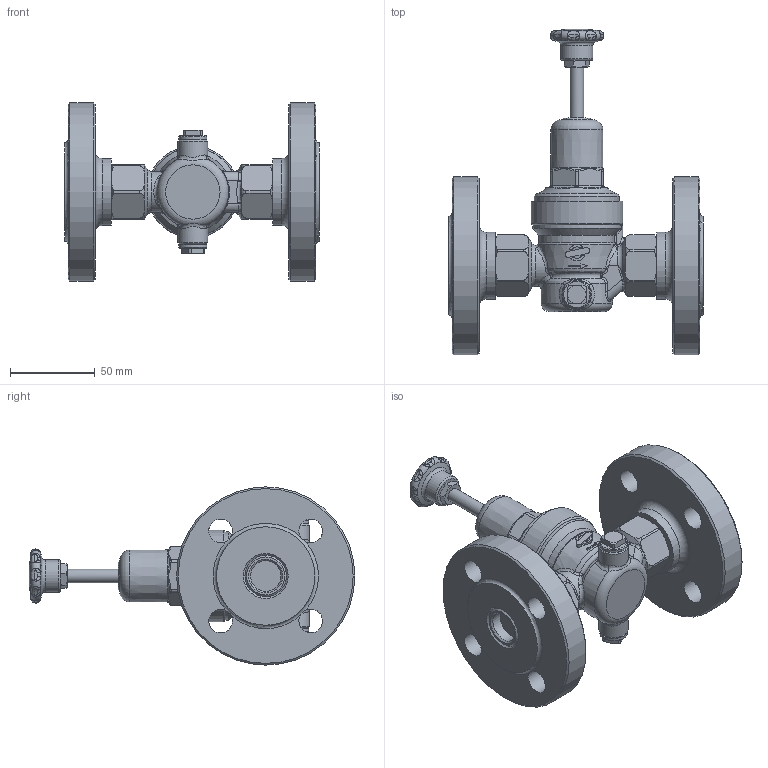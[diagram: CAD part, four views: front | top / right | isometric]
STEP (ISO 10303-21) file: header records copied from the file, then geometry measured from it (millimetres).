
FILE_DESCRIPTION(/* description */ (''),/* implementation_level */ '2;1');
FILE_NAME(/* name */ 'U:/AirCom-Produktdokumentation/Druckregler/RWF/Zeichnungen/CAD-Aircom/3D/B-RWF-06C.step',/* time_stamp */ '2022-07-01T13:22:11+02:00',/* author */ (''),/* organization */ (''),/* preprocessor_version */ 'ST-DEVELOPER v19',/* originating_system */ 'Autodesk Translation Framework v11.7.0.108',/* authorisation */ '');
FILE_SCHEMA (('AUTOMOTIVE_DESIGN { 1 0 10303 214 3 1 1 }'));
Length unit declared in the file: millimetre
Products named in the file (1): 005203_step
Bounding box: 150 x 191.84 x 105 mm (x, y, z)
Volume: 498752.6 mm3; surface area: 78615.7 mm2
Topology: 1 solids, 2 shells, 482 faces, 1237 edges, 762 vertices
Faces by surface type: bspline 139, plane 135, cylinder 96, cone 71, torus 38, sphere 3
Full cylindrical faces by diameter (mm): 3 x1, 8 x2, 8.4 x1, 10 x1, 14 x8, 16.5 x2, 17.5 x2, 18 x2, 19 x1, 27 x1, 39.5 x2, 50 x1, 54 x1, 105 x2
Entity records: 23298 total; most frequent: CARTESIAN_POINT 12119, ORIENTED_EDGE 2464, DIRECTION 1967, EDGE_CURVE 1232, AXIS2_PLACEMENT_3D 833, VERTEX_POINT 762, EDGE_LOOP 518, FACE_OUTER_BOUND 482
